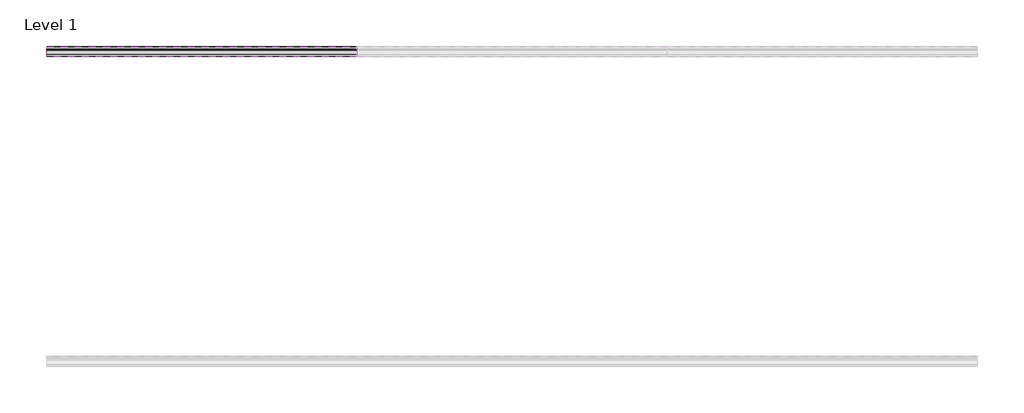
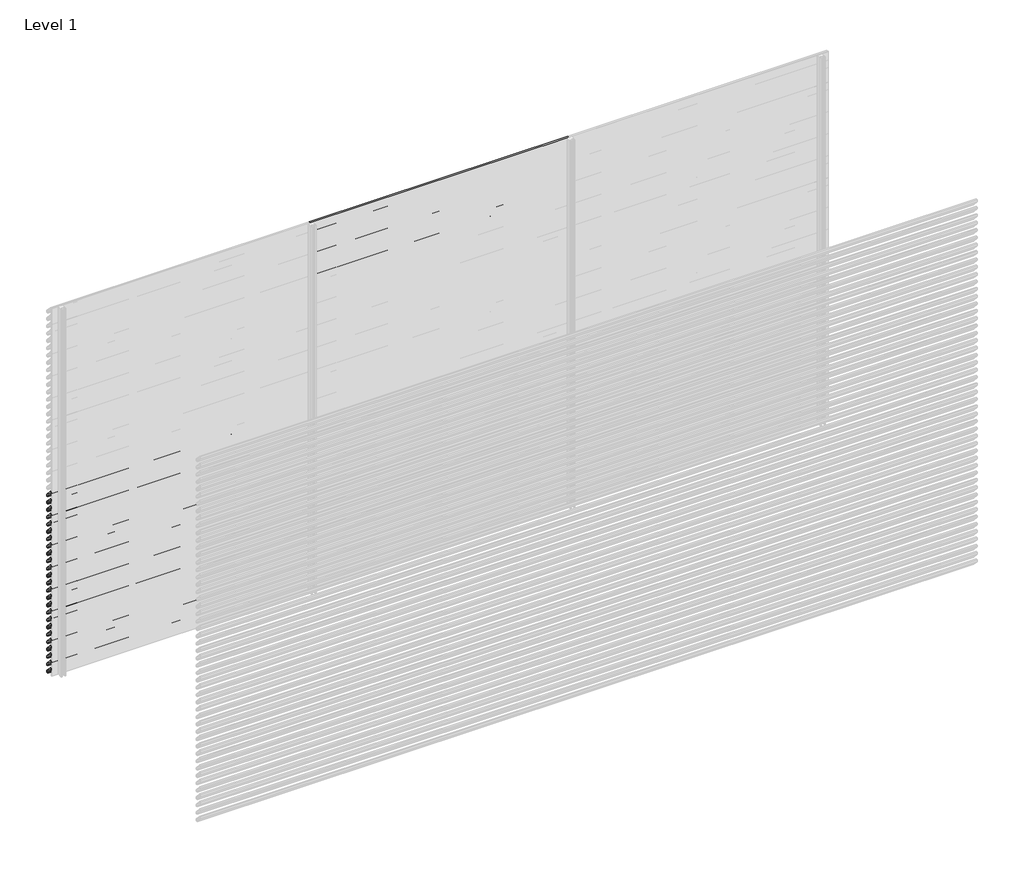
# One storey, part 115 of 153: 33 proxies.
"""IFC4 building model written with IfcOpenShell, lengths in millimetres."""

from ifc_helpers import new_model, si_unit, point, frame, frame_2d, origin, place, context, project, spatial, polyline, circle_curve, trimmed, segment, composite_curve, outline, extrude, element, save

model = new_model("IFC4")

# Units and contexts
model_context = context("Model", 3, world=origin())
ifc_project = project(units=[si_unit("LENGTHUNIT", "METRE", prefix="MILLI")], contexts=[model_context])

# Site, building, storey
site = spatial("IfcSite", under=ifc_project)
building = spatial("IfcBuilding", under=site)
storey = spatial("IfcBuildingStorey", under=building, Name="Level 1", Elevation=0.0)

# Proxies
placement = place(None, origin())
element("IfcBuildingElementProxy", 1, Name="Wall Sweeps", at=placement, inside=storey, context=model_context, shape_type="SweptSolid", body=[
    extrude(outline(composite_curve([segment(polyline([(58985.0540136, 1500.0), (58999.874191, 1498.7034025), (59049.0540136, 1445.0102749), (59049.0540136, 1433.6108187)]), True, "CONTINUOUS"), segment(trimmed(circle_curve(frame_2d((59045.7883652, 1433.897153)), 3.2781774), [point((59049.0540136, 1433.6108187))], [point((59046.4639442, 1430.6893438))], False, "CARTESIAN"), True, "CONTINUOUS"), segment(polyline([(59046.4639442, 1430.6893438), (59034.1895723, 1431.6282758), (58985.0540136, 1485.2730773), (58985.0540136, 1500.0)]), True, "CONTINUOUS")], self_intersect=False), holes=[composite_curve([segment(polyline([(58999.1621773, 1497.2599659), (58986.5540136, 1498.3630372), (58986.5540136, 1485.856213), (59034.8952036, 1433.0786805), (59046.3312542, 1432.2038762)]), True, "CONTINUOUS"), segment(trimmed(circle_curve(frame_2d((59045.7883652, 1433.897153)), 1.7781774), [point((59046.3312542, 1432.2038762))], [point((59047.5540136, 1433.6864389))], True, "CARTESIAN"), True, "CONTINUOUS"), segment(polyline([(59047.5540136, 1433.6864389), (59047.5540136, 1444.4271392), (58999.1621773, 1497.2599659)]), True, "CONTINUOUS")], self_intersect=False)]), frame((44966.6208097, 0.0, 0.0), z_axis=(1.0, 0.0, 0.0), x_axis=(0.0, 1.0, 0.0)), (0.0, 0.0, 1.0), 2000.0000001),
])
element("IfcBuildingElementProxy", 2, Name="Wall Sweeps", at=placement, inside=storey, context=model_context, shape_type="SweptSolid", body=[
    extrude(outline(composite_curve([segment(polyline([(58985.0540136, 1440.0), (58999.874191, 1438.7034025), (59049.0540136, 1385.0102749), (59049.0540136, 1373.6108187)]), True, "CONTINUOUS"), segment(trimmed(circle_curve(frame_2d((59045.7883652, 1373.897153)), 3.2781774), [point((59049.0540136, 1373.6108187))], [point((59046.4639442, 1370.6893438))], False, "CARTESIAN"), True, "CONTINUOUS"), segment(polyline([(59046.4639442, 1370.6893438), (59034.1895723, 1371.6282758), (58985.0540136, 1425.2730773), (58985.0540136, 1440.0)]), True, "CONTINUOUS")], self_intersect=False), holes=[composite_curve([segment(polyline([(58999.1621773, 1437.2599659), (58986.5540136, 1438.3630372), (58986.5540136, 1425.856213), (59034.8952036, 1373.0786805), (59046.3312542, 1372.2038762)]), True, "CONTINUOUS"), segment(trimmed(circle_curve(frame_2d((59045.7883652, 1373.897153)), 1.7781774), [point((59046.3312542, 1372.2038762))], [point((59047.5540136, 1373.6864389))], True, "CARTESIAN"), True, "CONTINUOUS"), segment(polyline([(59047.5540136, 1373.6864389), (59047.5540136, 1384.4271392), (58999.1621773, 1437.2599659)]), True, "CONTINUOUS")], self_intersect=False)]), frame((44966.6208097, 0.0, 0.0), z_axis=(1.0, 0.0, 0.0), x_axis=(0.0, 1.0, 0.0)), (0.0, 0.0, 1.0), 2000.0000001),
])
element("IfcBuildingElementProxy", 3, Name="Wall Sweeps", at=placement, inside=storey, context=model_context, shape_type="SweptSolid", body=[
    extrude(outline(composite_curve([segment(polyline([(58985.0540136, 1380.0), (58999.874191, 1378.7034025), (59049.0540136, 1325.0102749), (59049.0540136, 1313.6108187)]), True, "CONTINUOUS"), segment(trimmed(circle_curve(frame_2d((59045.7883652, 1313.897153)), 3.2781774), [point((59049.0540136, 1313.6108187))], [point((59046.4639442, 1310.6893438))], False, "CARTESIAN"), True, "CONTINUOUS"), segment(polyline([(59046.4639442, 1310.6893438), (59034.1895723, 1311.6282758), (58985.0540136, 1365.2730773), (58985.0540136, 1380.0)]), True, "CONTINUOUS")], self_intersect=False), holes=[composite_curve([segment(polyline([(58999.1621773, 1377.2599659), (58986.5540136, 1378.3630372), (58986.5540136, 1365.856213), (59034.8952036, 1313.0786805), (59046.3312542, 1312.2038762)]), True, "CONTINUOUS"), segment(trimmed(circle_curve(frame_2d((59045.7883652, 1313.897153)), 1.7781774), [point((59046.3312542, 1312.2038762))], [point((59047.5540136, 1313.6864389))], True, "CARTESIAN"), True, "CONTINUOUS"), segment(polyline([(59047.5540136, 1313.6864389), (59047.5540136, 1324.4271392), (58999.1621773, 1377.2599659)]), True, "CONTINUOUS")], self_intersect=False)]), frame((44966.6208097, 0.0, 0.0), z_axis=(1.0, 0.0, 0.0), x_axis=(0.0, 1.0, 0.0)), (0.0, 0.0, 1.0), 2000.0000001),
])
element("IfcBuildingElementProxy", 4, Name="Wall Sweeps", at=placement, inside=storey, context=model_context, shape_type="SweptSolid", body=[
    extrude(outline(composite_curve([segment(polyline([(58985.0540136, 1320.0), (58999.874191, 1318.7034025), (59049.0540136, 1265.0102749), (59049.0540136, 1253.6108187)]), True, "CONTINUOUS"), segment(trimmed(circle_curve(frame_2d((59045.7883652, 1253.897153)), 3.2781774), [point((59049.0540136, 1253.6108187))], [point((59046.4639442, 1250.6893438))], False, "CARTESIAN"), True, "CONTINUOUS"), segment(polyline([(59046.4639442, 1250.6893438), (59034.1895723, 1251.6282758), (58985.0540136, 1305.2730773), (58985.0540136, 1320.0)]), True, "CONTINUOUS")], self_intersect=False), holes=[composite_curve([segment(polyline([(58999.1621773, 1317.2599659), (58986.5540136, 1318.3630372), (58986.5540136, 1305.856213), (59034.8952036, 1253.0786805), (59046.3312542, 1252.2038762)]), True, "CONTINUOUS"), segment(trimmed(circle_curve(frame_2d((59045.7883652, 1253.897153)), 1.7781774), [point((59046.3312542, 1252.2038762))], [point((59047.5540136, 1253.6864389))], True, "CARTESIAN"), True, "CONTINUOUS"), segment(polyline([(59047.5540136, 1253.6864389), (59047.5540136, 1264.4271392), (58999.1621773, 1317.2599659)]), True, "CONTINUOUS")], self_intersect=False)]), frame((44966.6208097, 0.0, 0.0), z_axis=(1.0, 0.0, 0.0), x_axis=(0.0, 1.0, 0.0)), (0.0, 0.0, 1.0), 2000.0000001),
])
element("IfcBuildingElementProxy", 5, Name="Wall Sweeps", at=placement, inside=storey, context=model_context, shape_type="SweptSolid", body=[
    extrude(outline(composite_curve([segment(polyline([(58985.0540136, 1260.0), (58999.874191, 1258.7034025), (59049.0540136, 1205.0102749), (59049.0540136, 1193.6108187)]), True, "CONTINUOUS"), segment(trimmed(circle_curve(frame_2d((59045.7883652, 1193.897153)), 3.2781774), [point((59049.0540136, 1193.6108187))], [point((59046.4639442, 1190.6893438))], False, "CARTESIAN"), True, "CONTINUOUS"), segment(polyline([(59046.4639442, 1190.6893438), (59034.1895723, 1191.6282758), (58985.0540136, 1245.2730773), (58985.0540136, 1260.0)]), True, "CONTINUOUS")], self_intersect=False), holes=[composite_curve([segment(polyline([(58999.1621773, 1257.2599659), (58986.5540136, 1258.3630372), (58986.5540136, 1245.856213), (59034.8952036, 1193.0786805), (59046.3312542, 1192.2038762)]), True, "CONTINUOUS"), segment(trimmed(circle_curve(frame_2d((59045.7883652, 1193.897153)), 1.7781774), [point((59046.3312542, 1192.2038762))], [point((59047.5540136, 1193.6864389))], True, "CARTESIAN"), True, "CONTINUOUS"), segment(polyline([(59047.5540136, 1193.6864389), (59047.5540136, 1204.4271392), (58999.1621773, 1257.2599659)]), True, "CONTINUOUS")], self_intersect=False)]), frame((44966.6208097, 0.0, 0.0), z_axis=(1.0, 0.0, 0.0), x_axis=(0.0, 1.0, 0.0)), (0.0, 0.0, 1.0), 2000.0000001),
])
element("IfcBuildingElementProxy", 6, Name="Wall Sweeps", at=placement, inside=storey, context=model_context, shape_type="SweptSolid", body=[
    extrude(outline(composite_curve([segment(polyline([(58985.0540136, 1200.0), (58999.874191, 1198.7034025), (59049.0540136, 1145.0102749), (59049.0540136, 1133.6108187)]), True, "CONTINUOUS"), segment(trimmed(circle_curve(frame_2d((59045.7883652, 1133.897153)), 3.2781774), [point((59049.0540136, 1133.6108187))], [point((59046.4639442, 1130.6893438))], False, "CARTESIAN"), True, "CONTINUOUS"), segment(polyline([(59046.4639442, 1130.6893438), (59034.1895723, 1131.6282758), (58985.0540136, 1185.2730773), (58985.0540136, 1200.0)]), True, "CONTINUOUS")], self_intersect=False), holes=[composite_curve([segment(polyline([(58999.1621773, 1197.2599659), (58986.5540136, 1198.3630372), (58986.5540136, 1185.856213), (59034.8952036, 1133.0786805), (59046.3312542, 1132.2038762)]), True, "CONTINUOUS"), segment(trimmed(circle_curve(frame_2d((59045.7883652, 1133.897153)), 1.7781774), [point((59046.3312542, 1132.2038762))], [point((59047.5540136, 1133.6864389))], True, "CARTESIAN"), True, "CONTINUOUS"), segment(polyline([(59047.5540136, 1133.6864389), (59047.5540136, 1144.4271392), (58999.1621773, 1197.2599659)]), True, "CONTINUOUS")], self_intersect=False)]), frame((44966.6208097, 0.0, 0.0), z_axis=(1.0, 0.0, 0.0), x_axis=(0.0, 1.0, 0.0)), (0.0, 0.0, 1.0), 2000.0000001),
])
element("IfcBuildingElementProxy", 7, Name="Wall Sweeps", at=placement, inside=storey, context=model_context, shape_type="SweptSolid", body=[
    extrude(outline(composite_curve([segment(polyline([(58985.0540136, 1140.0), (58999.874191, 1138.7034025), (59049.0540136, 1085.0102749), (59049.0540136, 1073.6108187)]), True, "CONTINUOUS"), segment(trimmed(circle_curve(frame_2d((59045.7883652, 1073.897153)), 3.2781774), [point((59049.0540136, 1073.6108187))], [point((59046.4639442, 1070.6893438))], False, "CARTESIAN"), True, "CONTINUOUS"), segment(polyline([(59046.4639442, 1070.6893438), (59034.1895723, 1071.6282758), (58985.0540136, 1125.2730773), (58985.0540136, 1140.0)]), True, "CONTINUOUS")], self_intersect=False), holes=[composite_curve([segment(polyline([(58999.1621773, 1137.2599659), (58986.5540136, 1138.3630372), (58986.5540136, 1125.856213), (59034.8952036, 1073.0786805), (59046.3312542, 1072.2038762)]), True, "CONTINUOUS"), segment(trimmed(circle_curve(frame_2d((59045.7883652, 1073.897153)), 1.7781774), [point((59046.3312542, 1072.2038762))], [point((59047.5540136, 1073.6864389))], True, "CARTESIAN"), True, "CONTINUOUS"), segment(polyline([(59047.5540136, 1073.6864389), (59047.5540136, 1084.4271392), (58999.1621773, 1137.2599659)]), True, "CONTINUOUS")], self_intersect=False)]), frame((44966.6208097, 0.0, 0.0), z_axis=(1.0, 0.0, 0.0), x_axis=(0.0, 1.0, 0.0)), (0.0, 0.0, 1.0), 2000.0000001),
])
element("IfcBuildingElementProxy", 8, Name="Wall Sweeps", at=placement, inside=storey, context=model_context, shape_type="SweptSolid", body=[
    extrude(outline(composite_curve([segment(polyline([(58985.0540136, 1080.0), (58999.874191, 1078.7034025), (59049.0540136, 1025.0102749), (59049.0540136, 1013.6108187)]), True, "CONTINUOUS"), segment(trimmed(circle_curve(frame_2d((59045.7883652, 1013.897153)), 3.2781774), [point((59049.0540136, 1013.6108187))], [point((59046.4639442, 1010.6893438))], False, "CARTESIAN"), True, "CONTINUOUS"), segment(polyline([(59046.4639442, 1010.6893438), (59034.1895723, 1011.6282758), (58985.0540136, 1065.2730773), (58985.0540136, 1080.0)]), True, "CONTINUOUS")], self_intersect=False), holes=[composite_curve([segment(polyline([(58999.1621773, 1077.2599659), (58986.5540136, 1078.3630372), (58986.5540136, 1065.856213), (59034.8952036, 1013.0786805), (59046.3312542, 1012.2038762)]), True, "CONTINUOUS"), segment(trimmed(circle_curve(frame_2d((59045.7883652, 1013.897153)), 1.7781774), [point((59046.3312542, 1012.2038762))], [point((59047.5540136, 1013.6864389))], True, "CARTESIAN"), True, "CONTINUOUS"), segment(polyline([(59047.5540136, 1013.6864389), (59047.5540136, 1024.4271392), (58999.1621773, 1077.2599659)]), True, "CONTINUOUS")], self_intersect=False)]), frame((44966.6208097, 0.0, 0.0), z_axis=(1.0, 0.0, 0.0), x_axis=(0.0, 1.0, 0.0)), (0.0, 0.0, 1.0), 2000.0000001),
])
element("IfcBuildingElementProxy", 9, Name="Wall Sweeps", at=placement, inside=storey, context=model_context, shape_type="SweptSolid", body=[
    extrude(outline(composite_curve([segment(polyline([(58985.0540136, 1020.0), (58999.874191, 1018.7034025), (59049.0540136, 965.0102749), (59049.0540136, 953.6108187)]), True, "CONTINUOUS"), segment(trimmed(circle_curve(frame_2d((59045.7883652, 953.897153)), 3.2781774), [point((59049.0540136, 953.6108187))], [point((59046.4639442, 950.6893438))], False, "CARTESIAN"), True, "CONTINUOUS"), segment(polyline([(59046.4639442, 950.6893438), (59034.1895723, 951.6282758), (58985.0540136, 1005.2730773), (58985.0540136, 1020.0)]), True, "CONTINUOUS")], self_intersect=False), holes=[composite_curve([segment(polyline([(58999.1621773, 1017.2599659), (58986.5540136, 1018.3630372), (58986.5540136, 1005.856213), (59034.8952036, 953.0786805), (59046.3312542, 952.2038762)]), True, "CONTINUOUS"), segment(trimmed(circle_curve(frame_2d((59045.7883652, 953.897153)), 1.7781774), [point((59046.3312542, 952.2038762))], [point((59047.5540136, 953.6864389))], True, "CARTESIAN"), True, "CONTINUOUS"), segment(polyline([(59047.5540136, 953.6864389), (59047.5540136, 964.4271392), (58999.1621773, 1017.2599659)]), True, "CONTINUOUS")], self_intersect=False)]), frame((44966.6208097, 0.0, 0.0), z_axis=(1.0, 0.0, 0.0), x_axis=(0.0, 1.0, 0.0)), (0.0, 0.0, 1.0), 2000.0000001),
])
element("IfcBuildingElementProxy", 10, Name="Wall Sweeps", at=placement, inside=storey, context=model_context, shape_type="SweptSolid", body=[
    extrude(outline(composite_curve([segment(polyline([(58985.0540136, 960.0), (58999.874191, 958.7034025), (59049.0540136, 905.0102749), (59049.0540136, 893.6108187)]), True, "CONTINUOUS"), segment(trimmed(circle_curve(frame_2d((59045.7883652, 893.897153)), 3.2781774), [point((59049.0540136, 893.6108187))], [point((59046.4639442, 890.6893438))], False, "CARTESIAN"), True, "CONTINUOUS"), segment(polyline([(59046.4639442, 890.6893438), (59034.1895723, 891.6282758), (58985.0540136, 945.2730773), (58985.0540136, 960.0)]), True, "CONTINUOUS")], self_intersect=False), holes=[composite_curve([segment(polyline([(58999.1621773, 957.2599659), (58986.5540136, 958.3630372), (58986.5540136, 945.856213), (59034.8952036, 893.0786805), (59046.3312542, 892.2038762)]), True, "CONTINUOUS"), segment(trimmed(circle_curve(frame_2d((59045.7883652, 893.897153)), 1.7781774), [point((59046.3312542, 892.2038762))], [point((59047.5540136, 893.6864389))], True, "CARTESIAN"), True, "CONTINUOUS"), segment(polyline([(59047.5540136, 893.6864389), (59047.5540136, 904.4271392), (58999.1621773, 957.2599659)]), True, "CONTINUOUS")], self_intersect=False)]), frame((44966.6208097, 0.0, 0.0), z_axis=(1.0, 0.0, 0.0), x_axis=(0.0, 1.0, 0.0)), (0.0, 0.0, 1.0), 2000.0000001),
])
element("IfcBuildingElementProxy", 11, Name="Wall Sweeps", at=placement, inside=storey, context=model_context, shape_type="SweptSolid", body=[
    extrude(outline(composite_curve([segment(polyline([(58985.0540136, 900.0), (58999.874191, 898.7034025), (59049.0540136, 845.0102749), (59049.0540136, 833.6108187)]), True, "CONTINUOUS"), segment(trimmed(circle_curve(frame_2d((59045.7883652, 833.897153)), 3.2781774), [point((59049.0540136, 833.6108187))], [point((59046.4639442, 830.6893438))], False, "CARTESIAN"), True, "CONTINUOUS"), segment(polyline([(59046.4639442, 830.6893438), (59034.1895723, 831.6282758), (58985.0540136, 885.2730773), (58985.0540136, 900.0)]), True, "CONTINUOUS")], self_intersect=False), holes=[composite_curve([segment(polyline([(58999.1621773, 897.2599659), (58986.5540136, 898.3630372), (58986.5540136, 885.856213), (59034.8952036, 833.0786805), (59046.3312542, 832.2038762)]), True, "CONTINUOUS"), segment(trimmed(circle_curve(frame_2d((59045.7883652, 833.897153)), 1.7781774), [point((59046.3312542, 832.2038762))], [point((59047.5540136, 833.6864389))], True, "CARTESIAN"), True, "CONTINUOUS"), segment(polyline([(59047.5540136, 833.6864389), (59047.5540136, 844.4271392), (58999.1621773, 897.2599659)]), True, "CONTINUOUS")], self_intersect=False)]), frame((44966.6208097, 0.0, 0.0), z_axis=(1.0, 0.0, 0.0), x_axis=(0.0, 1.0, 0.0)), (0.0, 0.0, 1.0), 2000.0000001),
])
element("IfcBuildingElementProxy", 12, Name="Wall Sweeps", at=placement, inside=storey, context=model_context, shape_type="SweptSolid", body=[
    extrude(outline(composite_curve([segment(polyline([(58985.0540136, 840.0), (58999.874191, 838.7034025), (59049.0540136, 785.0102749), (59049.0540136, 773.6108187)]), True, "CONTINUOUS"), segment(trimmed(circle_curve(frame_2d((59045.7883652, 773.897153)), 3.2781774), [point((59049.0540136, 773.6108187))], [point((59046.4639442, 770.6893438))], False, "CARTESIAN"), True, "CONTINUOUS"), segment(polyline([(59046.4639442, 770.6893438), (59034.1895723, 771.6282758), (58985.0540136, 825.2730773), (58985.0540136, 840.0)]), True, "CONTINUOUS")], self_intersect=False), holes=[composite_curve([segment(polyline([(58999.1621773, 837.2599659), (58986.5540136, 838.3630372), (58986.5540136, 825.856213), (59034.8952036, 773.0786805), (59046.3312542, 772.2038762)]), True, "CONTINUOUS"), segment(trimmed(circle_curve(frame_2d((59045.7883652, 773.897153)), 1.7781774), [point((59046.3312542, 772.2038762))], [point((59047.5540136, 773.6864389))], True, "CARTESIAN"), True, "CONTINUOUS"), segment(polyline([(59047.5540136, 773.6864389), (59047.5540136, 784.4271392), (58999.1621773, 837.2599659)]), True, "CONTINUOUS")], self_intersect=False)]), frame((44966.6208097, 0.0, 0.0), z_axis=(1.0, 0.0, 0.0), x_axis=(0.0, 1.0, 0.0)), (0.0, 0.0, 1.0), 2000.0000001),
])
element("IfcBuildingElementProxy", 13, Name="Wall Sweeps", at=placement, inside=storey, context=model_context, shape_type="SweptSolid", body=[
    extrude(outline(composite_curve([segment(polyline([(58985.0540136, 780.0), (58999.874191, 778.7034025), (59049.0540136, 725.0102749), (59049.0540136, 713.6108187)]), True, "CONTINUOUS"), segment(trimmed(circle_curve(frame_2d((59045.7883652, 713.897153)), 3.2781774), [point((59049.0540136, 713.6108187))], [point((59046.4639442, 710.6893438))], False, "CARTESIAN"), True, "CONTINUOUS"), segment(polyline([(59046.4639442, 710.6893438), (59034.1895723, 711.6282758), (58985.0540136, 765.2730773), (58985.0540136, 780.0)]), True, "CONTINUOUS")], self_intersect=False), holes=[composite_curve([segment(polyline([(58999.1621773, 777.2599659), (58986.5540136, 778.3630372), (58986.5540136, 765.856213), (59034.8952036, 713.0786805), (59046.3312542, 712.2038762)]), True, "CONTINUOUS"), segment(trimmed(circle_curve(frame_2d((59045.7883652, 713.897153)), 1.7781774), [point((59046.3312542, 712.2038762))], [point((59047.5540136, 713.6864389))], True, "CARTESIAN"), True, "CONTINUOUS"), segment(polyline([(59047.5540136, 713.6864389), (59047.5540136, 724.4271392), (58999.1621773, 777.2599659)]), True, "CONTINUOUS")], self_intersect=False)]), frame((44966.6208097, 0.0, 0.0), z_axis=(1.0, 0.0, 0.0), x_axis=(0.0, 1.0, 0.0)), (0.0, 0.0, 1.0), 2000.0000001),
])
element("IfcBuildingElementProxy", 14, Name="Wall Sweeps", at=placement, inside=storey, context=model_context, shape_type="SweptSolid", body=[
    extrude(outline(composite_curve([segment(polyline([(58985.0540136, 720.0), (58999.874191, 718.7034025), (59049.0540136, 665.0102749), (59049.0540136, 653.6108187)]), True, "CONTINUOUS"), segment(trimmed(circle_curve(frame_2d((59045.7883652, 653.897153)), 3.2781774), [point((59049.0540136, 653.6108187))], [point((59046.4639442, 650.6893438))], False, "CARTESIAN"), True, "CONTINUOUS"), segment(polyline([(59046.4639442, 650.6893438), (59034.1895723, 651.6282758), (58985.0540136, 705.2730773), (58985.0540136, 720.0)]), True, "CONTINUOUS")], self_intersect=False), holes=[composite_curve([segment(polyline([(58999.1621773, 717.2599659), (58986.5540136, 718.3630372), (58986.5540136, 705.856213), (59034.8952036, 653.0786805), (59046.3312542, 652.2038762)]), True, "CONTINUOUS"), segment(trimmed(circle_curve(frame_2d((59045.7883652, 653.897153)), 1.7781774), [point((59046.3312542, 652.2038762))], [point((59047.5540136, 653.6864389))], True, "CARTESIAN"), True, "CONTINUOUS"), segment(polyline([(59047.5540136, 653.6864389), (59047.5540136, 664.4271392), (58999.1621773, 717.2599659)]), True, "CONTINUOUS")], self_intersect=False)]), frame((44966.6208097, 0.0, 0.0), z_axis=(1.0, 0.0, 0.0), x_axis=(0.0, 1.0, 0.0)), (0.0, 0.0, 1.0), 2000.0000001),
])
element("IfcBuildingElementProxy", 15, Name="Wall Sweeps", at=placement, inside=storey, context=model_context, shape_type="SweptSolid", body=[
    extrude(outline(composite_curve([segment(polyline([(58985.0540136, 660.0), (58999.874191, 658.7034025), (59049.0540136, 605.0102749), (59049.0540136, 593.6108187)]), True, "CONTINUOUS"), segment(trimmed(circle_curve(frame_2d((59045.7883652, 593.897153)), 3.2781774), [point((59049.0540136, 593.6108187))], [point((59046.4639442, 590.6893438))], False, "CARTESIAN"), True, "CONTINUOUS"), segment(polyline([(59046.4639442, 590.6893438), (59034.1895723, 591.6282758), (58985.0540136, 645.2730773), (58985.0540136, 660.0)]), True, "CONTINUOUS")], self_intersect=False), holes=[composite_curve([segment(polyline([(58999.1621773, 657.2599659), (58986.5540136, 658.3630372), (58986.5540136, 645.856213), (59034.8952036, 593.0786805), (59046.3312542, 592.2038762)]), True, "CONTINUOUS"), segment(trimmed(circle_curve(frame_2d((59045.7883652, 593.897153)), 1.7781774), [point((59046.3312542, 592.2038762))], [point((59047.5540136, 593.6864389))], True, "CARTESIAN"), True, "CONTINUOUS"), segment(polyline([(59047.5540136, 593.6864389), (59047.5540136, 604.4271392), (58999.1621773, 657.2599659)]), True, "CONTINUOUS")], self_intersect=False)]), frame((44966.6208097, 0.0, 0.0), z_axis=(1.0, 0.0, 0.0), x_axis=(0.0, 1.0, 0.0)), (0.0, 0.0, 1.0), 2000.0000001),
])
element("IfcBuildingElementProxy", 16, Name="Wall Sweeps", at=placement, inside=storey, context=model_context, shape_type="SweptSolid", body=[
    extrude(outline(composite_curve([segment(polyline([(58985.0540136, 600.0), (58999.874191, 598.7034025), (59049.0540136, 545.0102749), (59049.0540136, 533.6108187)]), True, "CONTINUOUS"), segment(trimmed(circle_curve(frame_2d((59045.7883652, 533.897153)), 3.2781774), [point((59049.0540136, 533.6108187))], [point((59046.4639442, 530.6893438))], False, "CARTESIAN"), True, "CONTINUOUS"), segment(polyline([(59046.4639442, 530.6893438), (59034.1895723, 531.6282758), (58985.0540136, 585.2730773), (58985.0540136, 600.0)]), True, "CONTINUOUS")], self_intersect=False), holes=[composite_curve([segment(polyline([(58999.1621773, 597.2599659), (58986.5540136, 598.3630372), (58986.5540136, 585.856213), (59034.8952036, 533.0786805), (59046.3312542, 532.2038762)]), True, "CONTINUOUS"), segment(trimmed(circle_curve(frame_2d((59045.7883652, 533.897153)), 1.7781774), [point((59046.3312542, 532.2038762))], [point((59047.5540136, 533.6864389))], True, "CARTESIAN"), True, "CONTINUOUS"), segment(polyline([(59047.5540136, 533.6864389), (59047.5540136, 544.4271392), (58999.1621773, 597.2599659)]), True, "CONTINUOUS")], self_intersect=False)]), frame((44966.6208097, 0.0, 0.0), z_axis=(1.0, 0.0, 0.0), x_axis=(0.0, 1.0, 0.0)), (0.0, 0.0, 1.0), 2000.0000001),
])
element("IfcBuildingElementProxy", 17, Name="Wall Sweeps", at=placement, inside=storey, context=model_context, shape_type="SweptSolid", body=[
    extrude(outline(composite_curve([segment(polyline([(58985.0540136, 540.0), (58999.874191, 538.7034025), (59049.0540136, 485.0102749), (59049.0540136, 473.6108187)]), True, "CONTINUOUS"), segment(trimmed(circle_curve(frame_2d((59045.7883652, 473.897153)), 3.2781774), [point((59049.0540136, 473.6108187))], [point((59046.4639442, 470.6893438))], False, "CARTESIAN"), True, "CONTINUOUS"), segment(polyline([(59046.4639442, 470.6893438), (59034.1895723, 471.6282758), (58985.0540136, 525.2730773), (58985.0540136, 540.0)]), True, "CONTINUOUS")], self_intersect=False), holes=[composite_curve([segment(polyline([(58999.1621773, 537.2599659), (58986.5540136, 538.3630372), (58986.5540136, 525.856213), (59034.8952036, 473.0786805), (59046.3312542, 472.2038762)]), True, "CONTINUOUS"), segment(trimmed(circle_curve(frame_2d((59045.7883652, 473.897153)), 1.7781774), [point((59046.3312542, 472.2038762))], [point((59047.5540136, 473.6864389))], True, "CARTESIAN"), True, "CONTINUOUS"), segment(polyline([(59047.5540136, 473.6864389), (59047.5540136, 484.4271392), (58999.1621773, 537.2599659)]), True, "CONTINUOUS")], self_intersect=False)]), frame((44966.6208097, 0.0, 0.0), z_axis=(1.0, 0.0, 0.0), x_axis=(0.0, 1.0, 0.0)), (0.0, 0.0, 1.0), 2000.0000001),
])
element("IfcBuildingElementProxy", 18, Name="Wall Sweeps", at=placement, inside=storey, context=model_context, shape_type="SweptSolid", body=[
    extrude(outline(composite_curve([segment(polyline([(58985.0540136, 480.0), (58999.874191, 478.7034025), (59049.0540136, 425.0102749), (59049.0540136, 413.6108187)]), True, "CONTINUOUS"), segment(trimmed(circle_curve(frame_2d((59045.7883652, 413.897153)), 3.2781774), [point((59049.0540136, 413.6108187))], [point((59046.4639442, 410.6893438))], False, "CARTESIAN"), True, "CONTINUOUS"), segment(polyline([(59046.4639442, 410.6893438), (59034.1895723, 411.6282758), (58985.0540136, 465.2730773), (58985.0540136, 480.0)]), True, "CONTINUOUS")], self_intersect=False), holes=[composite_curve([segment(polyline([(58999.1621773, 477.2599659), (58986.5540136, 478.3630372), (58986.5540136, 465.856213), (59034.8952036, 413.0786805), (59046.3312542, 412.2038762)]), True, "CONTINUOUS"), segment(trimmed(circle_curve(frame_2d((59045.7883652, 413.897153)), 1.7781774), [point((59046.3312542, 412.2038762))], [point((59047.5540136, 413.6864389))], True, "CARTESIAN"), True, "CONTINUOUS"), segment(polyline([(59047.5540136, 413.6864389), (59047.5540136, 424.4271392), (58999.1621773, 477.2599659)]), True, "CONTINUOUS")], self_intersect=False)]), frame((44966.6208097, 0.0, 0.0), z_axis=(1.0, 0.0, 0.0), x_axis=(0.0, 1.0, 0.0)), (0.0, 0.0, 1.0), 2000.0000001),
])
element("IfcBuildingElementProxy", 19, Name="Wall Sweeps", at=placement, inside=storey, context=model_context, shape_type="SweptSolid", body=[
    extrude(outline(composite_curve([segment(polyline([(58985.0540136, 420.0), (58999.874191, 418.7034025), (59049.0540136, 365.0102749), (59049.0540136, 353.6108187)]), True, "CONTINUOUS"), segment(trimmed(circle_curve(frame_2d((59045.7883652, 353.897153)), 3.2781774), [point((59049.0540136, 353.6108187))], [point((59046.4639442, 350.6893438))], False, "CARTESIAN"), True, "CONTINUOUS"), segment(polyline([(59046.4639442, 350.6893438), (59034.1895723, 351.6282758), (58985.0540136, 405.2730773), (58985.0540136, 420.0)]), True, "CONTINUOUS")], self_intersect=False), holes=[composite_curve([segment(polyline([(58999.1621773, 417.2599659), (58986.5540136, 418.3630372), (58986.5540136, 405.856213), (59034.8952036, 353.0786805), (59046.3312542, 352.2038762)]), True, "CONTINUOUS"), segment(trimmed(circle_curve(frame_2d((59045.7883652, 353.897153)), 1.7781774), [point((59046.3312542, 352.2038762))], [point((59047.5540136, 353.6864389))], True, "CARTESIAN"), True, "CONTINUOUS"), segment(polyline([(59047.5540136, 353.6864389), (59047.5540136, 364.4271392), (58999.1621773, 417.2599659)]), True, "CONTINUOUS")], self_intersect=False)]), frame((44966.6208097, 0.0, 0.0), z_axis=(1.0, 0.0, 0.0), x_axis=(0.0, 1.0, 0.0)), (0.0, 0.0, 1.0), 2000.0000001),
])
element("IfcBuildingElementProxy", 20, Name="Wall Sweeps", at=placement, inside=storey, context=model_context, shape_type="SweptSolid", body=[
    extrude(outline(composite_curve([segment(polyline([(58985.0540136, 360.0), (58999.874191, 358.7034025), (59049.0540136, 305.0102749), (59049.0540136, 293.6108187)]), True, "CONTINUOUS"), segment(trimmed(circle_curve(frame_2d((59045.7883652, 293.897153)), 3.2781774), [point((59049.0540136, 293.6108187))], [point((59046.4639442, 290.6893438))], False, "CARTESIAN"), True, "CONTINUOUS"), segment(polyline([(59046.4639442, 290.6893438), (59034.1895723, 291.6282758), (58985.0540136, 345.2730773), (58985.0540136, 360.0)]), True, "CONTINUOUS")], self_intersect=False), holes=[composite_curve([segment(polyline([(58999.1621773, 357.2599659), (58986.5540136, 358.3630372), (58986.5540136, 345.856213), (59034.8952036, 293.0786805), (59046.3312542, 292.2038762)]), True, "CONTINUOUS"), segment(trimmed(circle_curve(frame_2d((59045.7883652, 293.897153)), 1.7781774), [point((59046.3312542, 292.2038762))], [point((59047.5540136, 293.6864389))], True, "CARTESIAN"), True, "CONTINUOUS"), segment(polyline([(59047.5540136, 293.6864389), (59047.5540136, 304.4271392), (58999.1621773, 357.2599659)]), True, "CONTINUOUS")], self_intersect=False)]), frame((44966.6208097, 0.0, 0.0), z_axis=(1.0, 0.0, 0.0), x_axis=(0.0, 1.0, 0.0)), (0.0, 0.0, 1.0), 2000.0000001),
])
element("IfcBuildingElementProxy", 21, Name="Wall Sweeps", at=placement, inside=storey, context=model_context, shape_type="SweptSolid", body=[
    extrude(outline(composite_curve([segment(polyline([(58985.0540136, 300.0), (58999.874191, 298.7034025), (59049.0540136, 245.0102749), (59049.0540136, 233.6108187)]), True, "CONTINUOUS"), segment(trimmed(circle_curve(frame_2d((59045.7883652, 233.897153)), 3.2781774), [point((59049.0540136, 233.6108187))], [point((59046.4639442, 230.6893438))], False, "CARTESIAN"), True, "CONTINUOUS"), segment(polyline([(59046.4639442, 230.6893438), (59034.1895723, 231.6282758), (58985.0540136, 285.2730773), (58985.0540136, 300.0)]), True, "CONTINUOUS")], self_intersect=False), holes=[composite_curve([segment(polyline([(58999.1621773, 297.2599659), (58986.5540136, 298.3630372), (58986.5540136, 285.856213), (59034.8952036, 233.0786805), (59046.3312542, 232.2038762)]), True, "CONTINUOUS"), segment(trimmed(circle_curve(frame_2d((59045.7883652, 233.897153)), 1.7781774), [point((59046.3312542, 232.2038762))], [point((59047.5540136, 233.6864389))], True, "CARTESIAN"), True, "CONTINUOUS"), segment(polyline([(59047.5540136, 233.6864389), (59047.5540136, 244.4271392), (58999.1621773, 297.2599659)]), True, "CONTINUOUS")], self_intersect=False)]), frame((44966.6208097, 0.0, 0.0), z_axis=(1.0, 0.0, 0.0), x_axis=(0.0, 1.0, 0.0)), (0.0, 0.0, 1.0), 2000.0000001),
])
element("IfcBuildingElementProxy", 22, Name="Wall Sweeps", at=placement, inside=storey, context=model_context, shape_type="SweptSolid", body=[
    extrude(outline(composite_curve([segment(polyline([(58985.0540136, 240.0), (58999.874191, 238.7034025), (59049.0540136, 185.0102749), (59049.0540136, 173.6108187)]), True, "CONTINUOUS"), segment(trimmed(circle_curve(frame_2d((59045.7883652, 173.897153)), 3.2781774), [point((59049.0540136, 173.6108187))], [point((59046.4639442, 170.6893438))], False, "CARTESIAN"), True, "CONTINUOUS"), segment(polyline([(59046.4639442, 170.6893438), (59034.1895723, 171.6282758), (58985.0540136, 225.2730773), (58985.0540136, 240.0)]), True, "CONTINUOUS")], self_intersect=False), holes=[composite_curve([segment(polyline([(58999.1621773, 237.2599659), (58986.5540136, 238.3630372), (58986.5540136, 225.856213), (59034.8952036, 173.0786805), (59046.3312542, 172.2038762)]), True, "CONTINUOUS"), segment(trimmed(circle_curve(frame_2d((59045.7883652, 173.897153)), 1.7781774), [point((59046.3312542, 172.2038762))], [point((59047.5540136, 173.6864389))], True, "CARTESIAN"), True, "CONTINUOUS"), segment(polyline([(59047.5540136, 173.6864389), (59047.5540136, 184.4271392), (58999.1621773, 237.2599659)]), True, "CONTINUOUS")], self_intersect=False)]), frame((44966.6208097, 0.0, 0.0), z_axis=(1.0, 0.0, 0.0), x_axis=(0.0, 1.0, 0.0)), (0.0, 0.0, 1.0), 2000.0000001),
])
element("IfcBuildingElementProxy", 23, Name="Wall Sweeps", at=placement, inside=storey, context=model_context, shape_type="SweptSolid", body=[
    extrude(outline(composite_curve([segment(polyline([(58985.0540136, 180.0), (58999.874191, 178.7034025), (59049.0540136, 125.0102749), (59049.0540136, 113.6108187)]), True, "CONTINUOUS"), segment(trimmed(circle_curve(frame_2d((59045.7883652, 113.897153)), 3.2781774), [point((59049.0540136, 113.6108187))], [point((59046.4639442, 110.6893438))], False, "CARTESIAN"), True, "CONTINUOUS"), segment(polyline([(59046.4639442, 110.6893438), (59034.1895723, 111.6282758), (58985.0540136, 165.2730773), (58985.0540136, 180.0)]), True, "CONTINUOUS")], self_intersect=False), holes=[composite_curve([segment(polyline([(58999.1621773, 177.2599659), (58986.5540136, 178.3630372), (58986.5540136, 165.856213), (59034.8952036, 113.0786805), (59046.3312542, 112.2038762)]), True, "CONTINUOUS"), segment(trimmed(circle_curve(frame_2d((59045.7883652, 113.897153)), 1.7781774), [point((59046.3312542, 112.2038762))], [point((59047.5540136, 113.6864389))], True, "CARTESIAN"), True, "CONTINUOUS"), segment(polyline([(59047.5540136, 113.6864389), (59047.5540136, 124.4271392), (58999.1621773, 177.2599659)]), True, "CONTINUOUS")], self_intersect=False)]), frame((44966.6208097, 0.0, 0.0), z_axis=(1.0, 0.0, 0.0), x_axis=(0.0, 1.0, 0.0)), (0.0, 0.0, 1.0), 2000.0000001),
])
element("IfcBuildingElementProxy", 24, Name="Wall Sweeps", at=placement, inside=storey, context=model_context, shape_type="SweptSolid", body=[
    extrude(outline(composite_curve([segment(polyline([(58985.0540136, 120.0), (58999.874191, 118.7034025), (59049.0540136, 65.0102749), (59049.0540136, 53.6108187)]), True, "CONTINUOUS"), segment(trimmed(circle_curve(frame_2d((59045.7883652, 53.897153)), 3.2781774), [point((59049.0540136, 53.6108187))], [point((59046.4639442, 50.6893438))], False, "CARTESIAN"), True, "CONTINUOUS"), segment(polyline([(59046.4639442, 50.6893438), (59034.1895723, 51.6282758), (58985.0540136, 105.2730773), (58985.0540136, 120.0)]), True, "CONTINUOUS")], self_intersect=False), holes=[composite_curve([segment(polyline([(58999.1621773, 117.2599659), (58986.5540136, 118.3630372), (58986.5540136, 105.856213), (59034.8952036, 53.0786805), (59046.3312542, 52.2038762)]), True, "CONTINUOUS"), segment(trimmed(circle_curve(frame_2d((59045.7883652, 53.897153)), 1.7781774), [point((59046.3312542, 52.2038762))], [point((59047.5540136, 53.6864389))], True, "CARTESIAN"), True, "CONTINUOUS"), segment(polyline([(59047.5540136, 53.6864389), (59047.5540136, 64.4271392), (58999.1621773, 117.2599659)]), True, "CONTINUOUS")], self_intersect=False)]), frame((44966.6208097, 0.0, 0.0), z_axis=(1.0, 0.0, 0.0), x_axis=(0.0, 1.0, 0.0)), (0.0, 0.0, 1.0), 2000.0000001),
])
element("IfcBuildingElementProxy", 25, Name="Wall Sweeps", at=placement, inside=storey, context=model_context, shape_type="SweptSolid", body=[
    extrude(outline(composite_curve([segment(polyline([(58985.0540136, 60.0), (58999.874191, 58.7034025), (59049.0540136, 5.0102749), (59049.0540136, -6.3891813)]), True, "CONTINUOUS"), segment(trimmed(circle_curve(frame_2d((59045.7883652, -6.102847)), 3.2781774), [point((59049.0540136, -6.3891813))], [point((59046.4639442, -9.3106562))], False, "CARTESIAN"), True, "CONTINUOUS"), segment(polyline([(59046.4639442, -9.3106562), (59034.1895723, -8.3717242), (58985.0540136, 45.2730773), (58985.0540136, 60.0)]), True, "CONTINUOUS")], self_intersect=False), holes=[composite_curve([segment(polyline([(58999.1621773, 57.2599659), (58986.5540136, 58.3630372), (58986.5540136, 45.856213), (59034.8952036, -6.9213195), (59046.3312542, -7.7961238)]), True, "CONTINUOUS"), segment(trimmed(circle_curve(frame_2d((59045.7883652, -6.102847)), 1.7781774), [point((59046.3312542, -7.7961238))], [point((59047.5540136, -6.3135611))], True, "CARTESIAN"), True, "CONTINUOUS"), segment(polyline([(59047.5540136, -6.3135611), (59047.5540136, 4.4271392), (58999.1621773, 57.2599659)]), True, "CONTINUOUS")], self_intersect=False)]), frame((44966.6208097, 0.0, 0.0), z_axis=(1.0, 0.0, 0.0), x_axis=(0.0, 1.0, 0.0)), (0.0, 0.0, 1.0), 2000.0000001),
])
element("IfcBuildingElementProxy", 26, Name="Wall Sweeps", at=placement, inside=storey, context=model_context, shape_type="SweptSolid", body=[
    extrude(outline(composite_curve([segment(polyline([(58985.0540136, 3000.0), (58999.874191, 2998.7034025), (59049.0540136, 2945.0102749), (59049.0540136, 2933.6108187)]), True, "CONTINUOUS"), segment(trimmed(circle_curve(frame_2d((59045.7883652, 2933.897153)), 3.2781774), [point((59049.0540136, 2933.6108187))], [point((59046.4639442, 2930.6893438))], False, "CARTESIAN"), True, "CONTINUOUS"), segment(polyline([(59046.4639442, 2930.6893438), (59034.1895723, 2931.6282758), (58985.0540136, 2985.2730773), (58985.0540136, 3000.0)]), True, "CONTINUOUS")], self_intersect=False), holes=[composite_curve([segment(polyline([(58999.1621773, 2997.2599659), (58986.5540136, 2998.3630372), (58986.5540136, 2985.856213), (59034.8952036, 2933.0786805), (59046.3312542, 2932.2038762)]), True, "CONTINUOUS"), segment(trimmed(circle_curve(frame_2d((59045.7883652, 2933.897153)), 1.7781774), [point((59046.3312542, 2932.2038762))], [point((59047.5540136, 2933.6864389))], True, "CARTESIAN"), True, "CONTINUOUS"), segment(polyline([(59047.5540136, 2933.6864389), (59047.5540136, 2944.4271392), (58999.1621773, 2997.2599659)]), True, "CONTINUOUS")], self_intersect=False)]), frame((46966.6208098, 0.0, 0.0), z_axis=(1.0, 0.0, 0.0), x_axis=(0.0, 1.0, 0.0)), (0.0, 0.0, 1.0), 1999.9999998),
])
element("IfcBuildingElementProxy", 27, Name="Wall Sweeps", at=placement, inside=storey, context=model_context, shape_type="SweptSolid", body=[
    extrude(outline(composite_curve([segment(polyline([(58985.0540136, 2940.0), (58999.874191, 2938.7034025), (59049.0540136, 2885.0102749), (59049.0540136, 2873.6108187)]), True, "CONTINUOUS"), segment(trimmed(circle_curve(frame_2d((59045.7883652, 2873.897153)), 3.2781774), [point((59049.0540136, 2873.6108187))], [point((59046.4639442, 2870.6893438))], False, "CARTESIAN"), True, "CONTINUOUS"), segment(polyline([(59046.4639442, 2870.6893438), (59034.1895723, 2871.6282758), (58985.0540136, 2925.2730773), (58985.0540136, 2940.0)]), True, "CONTINUOUS")], self_intersect=False), holes=[composite_curve([segment(polyline([(58999.1621773, 2937.2599659), (58986.5540136, 2938.3630372), (58986.5540136, 2925.856213), (59034.8952036, 2873.0786805), (59046.3312542, 2872.2038762)]), True, "CONTINUOUS"), segment(trimmed(circle_curve(frame_2d((59045.7883652, 2873.897153)), 1.7781774), [point((59046.3312542, 2872.2038762))], [point((59047.5540136, 2873.6864389))], True, "CARTESIAN"), True, "CONTINUOUS"), segment(polyline([(59047.5540136, 2873.6864389), (59047.5540136, 2884.4271392), (58999.1621773, 2937.2599659)]), True, "CONTINUOUS")], self_intersect=False)]), frame((46966.6208098, 0.0, 0.0), z_axis=(1.0, 0.0, 0.0), x_axis=(0.0, 1.0, 0.0)), (0.0, 0.0, 1.0), 1999.9999998),
])
element("IfcBuildingElementProxy", 28, Name="Wall Sweeps", at=placement, inside=storey, context=model_context, shape_type="SweptSolid", body=[
    extrude(outline(composite_curve([segment(polyline([(58985.0540136, 2880.0), (58999.874191, 2878.7034025), (59049.0540136, 2825.0102749), (59049.0540136, 2813.6108187)]), True, "CONTINUOUS"), segment(trimmed(circle_curve(frame_2d((59045.7883652, 2813.897153)), 3.2781774), [point((59049.0540136, 2813.6108187))], [point((59046.4639442, 2810.6893438))], False, "CARTESIAN"), True, "CONTINUOUS"), segment(polyline([(59046.4639442, 2810.6893438), (59034.1895723, 2811.6282758), (58985.0540136, 2865.2730773), (58985.0540136, 2880.0)]), True, "CONTINUOUS")], self_intersect=False), holes=[composite_curve([segment(polyline([(58999.1621773, 2877.2599659), (58986.5540136, 2878.3630372), (58986.5540136, 2865.856213), (59034.8952036, 2813.0786805), (59046.3312542, 2812.2038762)]), True, "CONTINUOUS"), segment(trimmed(circle_curve(frame_2d((59045.7883652, 2813.897153)), 1.7781774), [point((59046.3312542, 2812.2038762))], [point((59047.5540136, 2813.6864389))], True, "CARTESIAN"), True, "CONTINUOUS"), segment(polyline([(59047.5540136, 2813.6864389), (59047.5540136, 2824.4271392), (58999.1621773, 2877.2599659)]), True, "CONTINUOUS")], self_intersect=False)]), frame((46966.6208098, 0.0, 0.0), z_axis=(1.0, 0.0, 0.0), x_axis=(0.0, 1.0, 0.0)), (0.0, 0.0, 1.0), 1999.9999998),
])
element("IfcBuildingElementProxy", 29, Name="Wall Sweeps", at=placement, inside=storey, context=model_context, shape_type="SweptSolid", body=[
    extrude(outline(composite_curve([segment(polyline([(58985.0540136, 2820.0), (58999.874191, 2818.7034025), (59049.0540136, 2765.0102749), (59049.0540136, 2753.6108187)]), True, "CONTINUOUS"), segment(trimmed(circle_curve(frame_2d((59045.7883652, 2753.897153)), 3.2781774), [point((59049.0540136, 2753.6108187))], [point((59046.4639442, 2750.6893438))], False, "CARTESIAN"), True, "CONTINUOUS"), segment(polyline([(59046.4639442, 2750.6893438), (59034.1895723, 2751.6282758), (58985.0540136, 2805.2730773), (58985.0540136, 2820.0)]), True, "CONTINUOUS")], self_intersect=False), holes=[composite_curve([segment(polyline([(58999.1621773, 2817.2599659), (58986.5540136, 2818.3630372), (58986.5540136, 2805.856213), (59034.8952036, 2753.0786805), (59046.3312542, 2752.2038762)]), True, "CONTINUOUS"), segment(trimmed(circle_curve(frame_2d((59045.7883652, 2753.897153)), 1.7781774), [point((59046.3312542, 2752.2038762))], [point((59047.5540136, 2753.6864389))], True, "CARTESIAN"), True, "CONTINUOUS"), segment(polyline([(59047.5540136, 2753.6864389), (59047.5540136, 2764.4271392), (58999.1621773, 2817.2599659)]), True, "CONTINUOUS")], self_intersect=False)]), frame((46966.6208098, 0.0, 0.0), z_axis=(1.0, 0.0, 0.0), x_axis=(0.0, 1.0, 0.0)), (0.0, 0.0, 1.0), 1999.9999998),
])
element("IfcBuildingElementProxy", 30, Name="Wall Sweeps", at=placement, inside=storey, context=model_context, shape_type="SweptSolid", body=[
    extrude(outline(composite_curve([segment(polyline([(58985.0540136, 2760.0), (58999.874191, 2758.7034025), (59049.0540136, 2705.0102749), (59049.0540136, 2693.6108187)]), True, "CONTINUOUS"), segment(trimmed(circle_curve(frame_2d((59045.7883652, 2693.897153)), 3.2781774), [point((59049.0540136, 2693.6108187))], [point((59046.4639442, 2690.6893438))], False, "CARTESIAN"), True, "CONTINUOUS"), segment(polyline([(59046.4639442, 2690.6893438), (59034.1895723, 2691.6282758), (58985.0540136, 2745.2730773), (58985.0540136, 2760.0)]), True, "CONTINUOUS")], self_intersect=False), holes=[composite_curve([segment(polyline([(58999.1621773, 2757.2599659), (58986.5540136, 2758.3630372), (58986.5540136, 2745.856213), (59034.8952036, 2693.0786805), (59046.3312542, 2692.2038762)]), True, "CONTINUOUS"), segment(trimmed(circle_curve(frame_2d((59045.7883652, 2693.897153)), 1.7781774), [point((59046.3312542, 2692.2038762))], [point((59047.5540136, 2693.6864389))], True, "CARTESIAN"), True, "CONTINUOUS"), segment(polyline([(59047.5540136, 2693.6864389), (59047.5540136, 2704.4271392), (58999.1621773, 2757.2599659)]), True, "CONTINUOUS")], self_intersect=False)]), frame((46966.6208098, 0.0, 0.0), z_axis=(1.0, 0.0, 0.0), x_axis=(0.0, 1.0, 0.0)), (0.0, 0.0, 1.0), 1999.9999998),
])
element("IfcBuildingElementProxy", 31, Name="Wall Sweeps", at=placement, inside=storey, context=model_context, shape_type="SweptSolid", body=[
    extrude(outline(composite_curve([segment(polyline([(58985.0540136, 2700.0), (58999.874191, 2698.7034025), (59049.0540136, 2645.0102749), (59049.0540136, 2633.6108187)]), True, "CONTINUOUS"), segment(trimmed(circle_curve(frame_2d((59045.7883652, 2633.897153)), 3.2781774), [point((59049.0540136, 2633.6108187))], [point((59046.4639442, 2630.6893438))], False, "CARTESIAN"), True, "CONTINUOUS"), segment(polyline([(59046.4639442, 2630.6893438), (59034.1895723, 2631.6282758), (58985.0540136, 2685.2730773), (58985.0540136, 2700.0)]), True, "CONTINUOUS")], self_intersect=False), holes=[composite_curve([segment(polyline([(58999.1621773, 2697.2599659), (58986.5540136, 2698.3630372), (58986.5540136, 2685.856213), (59034.8952036, 2633.0786805), (59046.3312542, 2632.2038762)]), True, "CONTINUOUS"), segment(trimmed(circle_curve(frame_2d((59045.7883652, 2633.897153)), 1.7781774), [point((59046.3312542, 2632.2038762))], [point((59047.5540136, 2633.6864389))], True, "CARTESIAN"), True, "CONTINUOUS"), segment(polyline([(59047.5540136, 2633.6864389), (59047.5540136, 2644.4271392), (58999.1621773, 2697.2599659)]), True, "CONTINUOUS")], self_intersect=False)]), frame((46966.6208098, 0.0, 0.0), z_axis=(1.0, 0.0, 0.0), x_axis=(0.0, 1.0, 0.0)), (0.0, 0.0, 1.0), 1999.9999998),
])
element("IfcBuildingElementProxy", 32, Name="Wall Sweeps", at=placement, inside=storey, context=model_context, shape_type="SweptSolid", body=[
    extrude(outline(composite_curve([segment(polyline([(58985.0540136, 2640.0), (58999.874191, 2638.7034025), (59049.0540136, 2585.0102749), (59049.0540136, 2573.6108187)]), True, "CONTINUOUS"), segment(trimmed(circle_curve(frame_2d((59045.7883652, 2573.897153)), 3.2781774), [point((59049.0540136, 2573.6108187))], [point((59046.4639442, 2570.6893438))], False, "CARTESIAN"), True, "CONTINUOUS"), segment(polyline([(59046.4639442, 2570.6893438), (59034.1895723, 2571.6282758), (58985.0540136, 2625.2730773), (58985.0540136, 2640.0)]), True, "CONTINUOUS")], self_intersect=False), holes=[composite_curve([segment(polyline([(58999.1621773, 2637.2599659), (58986.5540136, 2638.3630372), (58986.5540136, 2625.856213), (59034.8952036, 2573.0786805), (59046.3312542, 2572.2038762)]), True, "CONTINUOUS"), segment(trimmed(circle_curve(frame_2d((59045.7883652, 2573.897153)), 1.7781774), [point((59046.3312542, 2572.2038762))], [point((59047.5540136, 2573.6864389))], True, "CARTESIAN"), True, "CONTINUOUS"), segment(polyline([(59047.5540136, 2573.6864389), (59047.5540136, 2584.4271392), (58999.1621773, 2637.2599659)]), True, "CONTINUOUS")], self_intersect=False)]), frame((46966.6208098, 0.0, 0.0), z_axis=(1.0, 0.0, 0.0), x_axis=(0.0, 1.0, 0.0)), (0.0, 0.0, 1.0), 1999.9999998),
])
element("IfcBuildingElementProxy", 33, Name="Wall Sweeps", at=placement, inside=storey, context=model_context, shape_type="SweptSolid", body=[
    extrude(outline(composite_curve([segment(polyline([(58985.0540136, 2580.0), (58999.874191, 2578.7034025), (59049.0540136, 2525.0102749), (59049.0540136, 2513.6108187)]), True, "CONTINUOUS"), segment(trimmed(circle_curve(frame_2d((59045.7883652, 2513.897153)), 3.2781774), [point((59049.0540136, 2513.6108187))], [point((59046.4639442, 2510.6893438))], False, "CARTESIAN"), True, "CONTINUOUS"), segment(polyline([(59046.4639442, 2510.6893438), (59034.1895723, 2511.6282758), (58985.0540136, 2565.2730773), (58985.0540136, 2580.0)]), True, "CONTINUOUS")], self_intersect=False), holes=[composite_curve([segment(polyline([(58999.1621773, 2577.2599659), (58986.5540136, 2578.3630372), (58986.5540136, 2565.856213), (59034.8952036, 2513.0786805), (59046.3312542, 2512.2038762)]), True, "CONTINUOUS"), segment(trimmed(circle_curve(frame_2d((59045.7883652, 2513.897153)), 1.7781774), [point((59046.3312542, 2512.2038762))], [point((59047.5540136, 2513.6864389))], True, "CARTESIAN"), True, "CONTINUOUS"), segment(polyline([(59047.5540136, 2513.6864389), (59047.5540136, 2524.4271392), (58999.1621773, 2577.2599659)]), True, "CONTINUOUS")], self_intersect=False)]), frame((46966.6208098, 0.0, 0.0), z_axis=(1.0, 0.0, 0.0), x_axis=(0.0, 1.0, 0.0)), (0.0, 0.0, 1.0), 1999.9999998),
])

save(model, "model.ifc")
